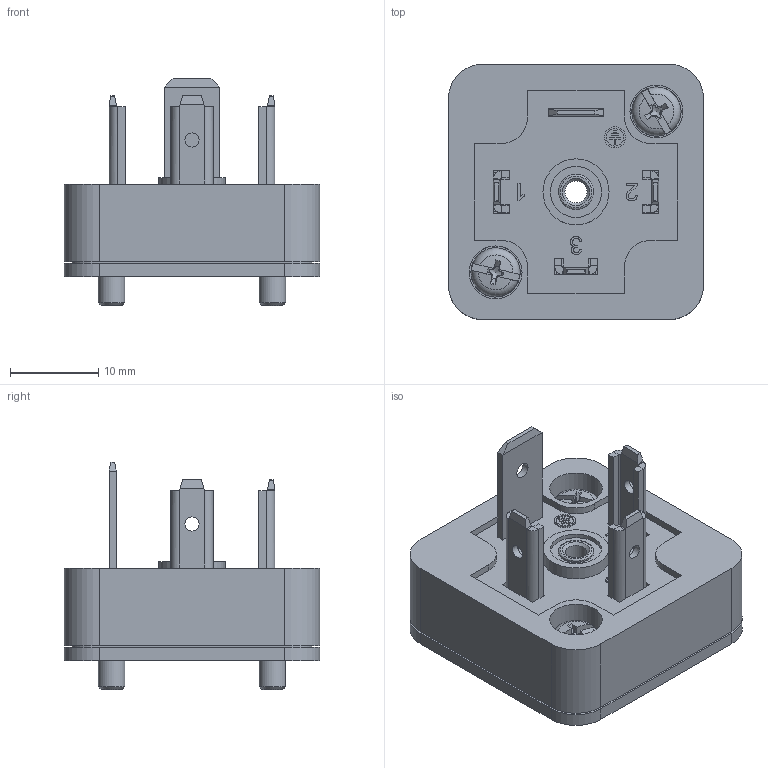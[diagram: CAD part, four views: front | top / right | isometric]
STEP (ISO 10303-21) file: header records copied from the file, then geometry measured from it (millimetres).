
FILE_DESCRIPTION(('Base Sobrepor DIN 43650 3 Polos+Terra Preta'),'2;1');
FILE_NAME('E:\WorkFolder\Bibl\3DWeb\kp_pe_pe3b_step.stp','2023-01-09T14:52:17',('DIE'),('KAP Componentes Eletricos Ltda.'),'Autodesk Inventor 2011','Autodesk Inventor 2011','Direitos reservados. Proibido reproducao, cedencia ou revelacao de conteudo a terceiros, salvo com autorizacao.');
FILE_SCHEMA(('AUTOMOTIVE_DESIGN { 1 0 10303 214 1 1 1 1 }'));
Length unit declared in the file: millimetre
Products named in the file (1): Part12
Bounding box: 29 x 29 x 25.8 mm (x, y, z)
Volume: 5682.9 mm3; surface area: 6216.1 mm2
Topology: 1 solids, 2 shells, 666 faces, 1734 edges, 1102 vertices
Faces by surface type: plane 440, cylinder 122, bspline 56, cone 35, torus 9, sphere 4
Full cylindrical faces by diameter (mm): 1.6 x3, 1.8 x1, 2 x2, 2.4 x2, 2.5 x1, 2.729 x2, 3 x2, 3.2 x4, 3.6 x1, 3.8 x1, 4 x1, 4.7 x8, 5.8 x1, 6 x3, 7.5 x1, 8 x1, 18.5 x1
Entity records: 22028 total; most frequent: CARTESIAN_POINT 5518, ORIENTED_EDGE 3356, DIRECTION 3033, EDGE_CURVE 1678, VECTOR 1161, LINE 1161, VERTEX_POINT 1095, AXIS2_PLACEMENT_3D 936
